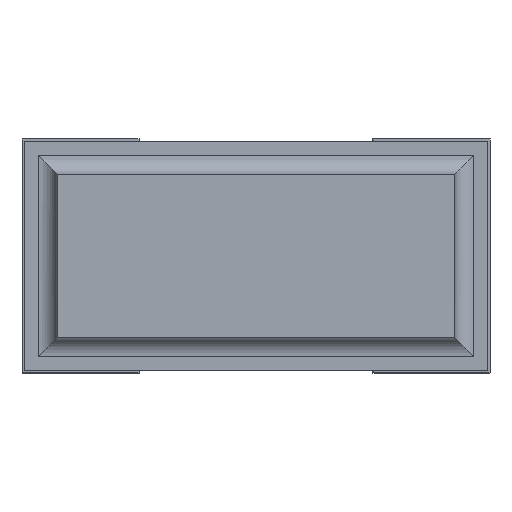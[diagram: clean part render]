
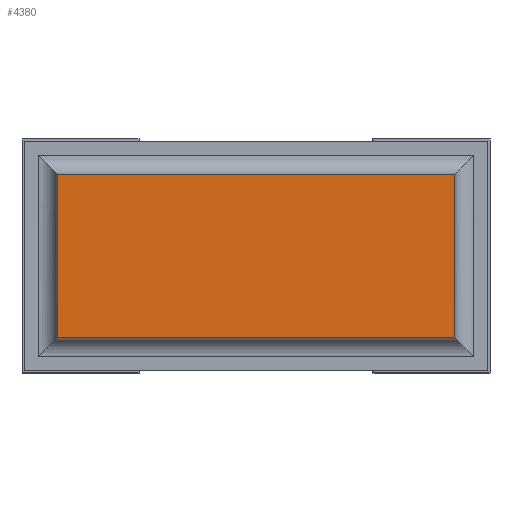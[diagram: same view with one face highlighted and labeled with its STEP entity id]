
A CAD part, front view. The second image highlights one B-rep face of the part: STEP entity #4380.
In plain terms, the highlighted planar face has unit normal (0, -1, 0).
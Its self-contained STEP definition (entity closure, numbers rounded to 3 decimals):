
#62=PLANE('',#4692);
#282=FACE_OUTER_BOUND('',#555,.T.);
#555=EDGE_LOOP('',(#3099,#3100,#3101,#3102));
#837=LINE('',#6259,#1409);
#845=LINE('',#6282,#1417);
#853=LINE('',#6295,#1425);
#854=LINE('',#6297,#1426);
#1409=VECTOR('',#5027,10.);
#1417=VECTOR('',#5045,10.);
#1425=VECTOR('',#5059,10.);
#1426=VECTOR('',#5062,10.);
#2039=VERTEX_POINT('',#6255);
#2040=VERTEX_POINT('',#6257);
#2049=VERTEX_POINT('',#6279);
#2050=VERTEX_POINT('',#6281);
#2441=EDGE_CURVE('',#2039,#2040,#837,.T.);
#2451=EDGE_CURVE('',#2049,#2050,#845,.T.);
#2459=EDGE_CURVE('',#2039,#2049,#853,.T.);
#2460=EDGE_CURVE('',#2050,#2040,#854,.T.);
#3099=ORIENTED_EDGE('',*,*,#2451,.F.);
#3100=ORIENTED_EDGE('',*,*,#2459,.F.);
#3101=ORIENTED_EDGE('',*,*,#2441,.T.);
#3102=ORIENTED_EDGE('',*,*,#2460,.F.);
#4380=ADVANCED_FACE('',(#282),#62,.T.);
#4692=AXIS2_PLACEMENT_3D('',#6296,#5060,#5061);
#5027=DIRECTION('',(0.,0.,-1.));
#5045=DIRECTION('',(0.,0.,-1.));
#5059=DIRECTION('',(1.,0.,0.));
#5060=DIRECTION('center_axis',(0.,-1.,0.));
#5061=DIRECTION('ref_axis',(0.,0.,-1.));
#5062=DIRECTION('',(-1.,0.,0.));
#6255=CARTESIAN_POINT('',(0.075,0.,0.425));
#6257=CARTESIAN_POINT('',(0.075,0.,0.075));
#6259=CARTESIAN_POINT('',(0.075,0.,0.425));
#6279=CARTESIAN_POINT('',(0.925,0.,0.425));
#6281=CARTESIAN_POINT('',(0.925,0.,0.075));
#6282=CARTESIAN_POINT('',(0.925,0.,0.425));
#6295=CARTESIAN_POINT('',(0.075,0.,0.425));
#6296=CARTESIAN_POINT('Origin',(0.926,0.,
0.25));
#6297=CARTESIAN_POINT('',(0.925,0.,0.075));
